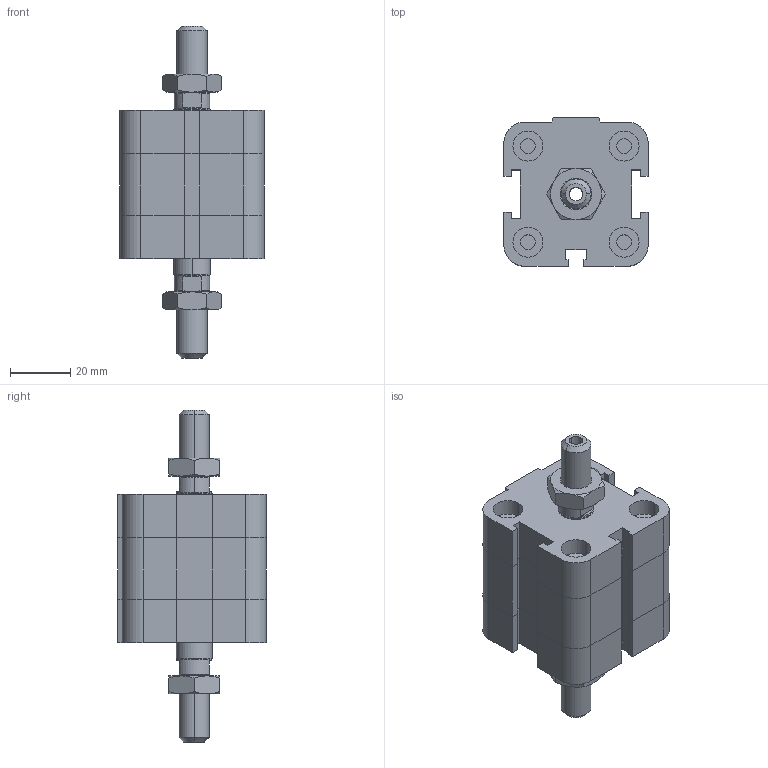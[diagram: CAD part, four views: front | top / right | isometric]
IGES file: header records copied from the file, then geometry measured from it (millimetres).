
Global section: file name: No Iges File Name specified; native system: Autodesk Inventor 2009; preprocessor: AutoDesk Inventor Iges Exporter R2009; author: maffial1; date: 20090420.142702; units: millimetre
Bounding box: 48 x 49.5 x 110.5 mm (x, y, z)
Volume: 103041.8 mm3; surface area: 28047.4 mm2
Topology: 4 solids, 4 shells, 262 faces, 580 edges, 346 vertices
Faces by surface type: plane 129, bspline 53, cone 38, cylinder 22, revolution 20
